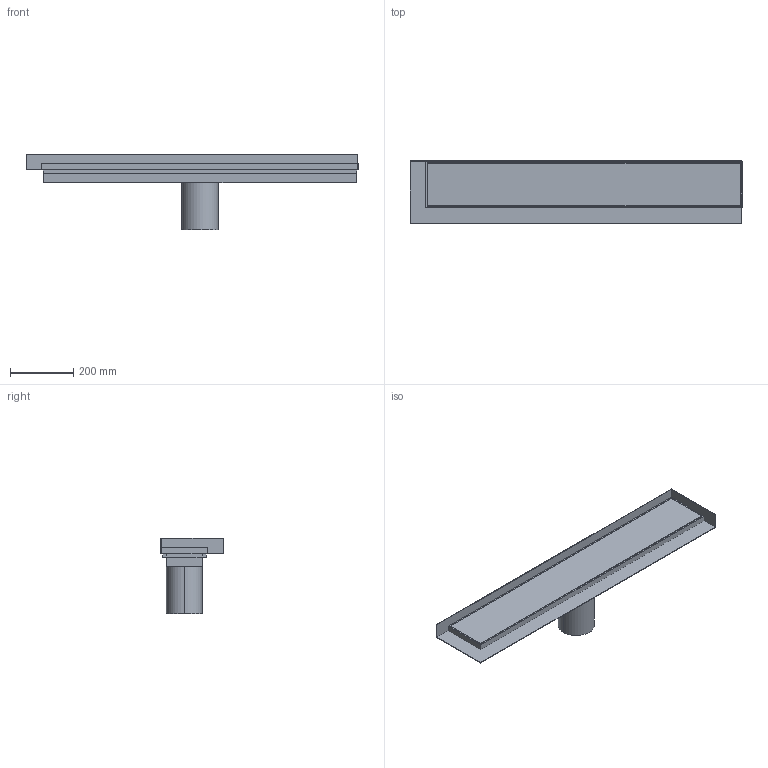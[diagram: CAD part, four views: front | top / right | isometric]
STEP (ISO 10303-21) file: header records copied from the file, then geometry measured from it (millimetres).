
FILE_DESCRIPTION(/* description */ (''),/* implementation_level */ '2;1');
FILE_NAME(/* name */ 'E:\Workspace\resitec\Packs\Kategorie\Entwässerungsrinne\STP\RS770K.045Entwässerungsrinne Rand 4.5mm-2xZargeH+R-2xKR50V+L.s.ipt.stp',/* time_stamp */ '2020-10-04T20:55:57+02:00',/* author */ ('ndmes'),/* organization */ (''),/* preprocessor_version */ 'ST-DEVELOPER v18.1',/* originating_system */ 'Autodesk Inventor 2021',/* authorisation */ '');
FILE_SCHEMA (('AUTOMOTIVE_DESIGN { 1 0 10303 214 3 1 1 }'));
Length unit declared in the file: millimetre
Products named in the file (1): RS770K.045Entwässerungsrinne Rand 4.5mm-2xZargeH+R-2xKR50V+L.s
Bounding box: 1050 x 198 x 240 mm (x, y, z)
Volume: 11128907.3 mm3; surface area: 1662974.8 mm2
Topology: 8 solids, 8 shells, 51 faces, 105 edges, 70 vertices
Faces by surface type: plane 49, cylinder 2
Entity records: 1361 total; most frequent: CARTESIAN_POINT 227, DIRECTION 213, ORIENTED_EDGE 210, EDGE_CURVE 105, LINE 101, VECTOR 101, VERTEX_POINT 70, AXIS2_PLACEMENT_3D 56
